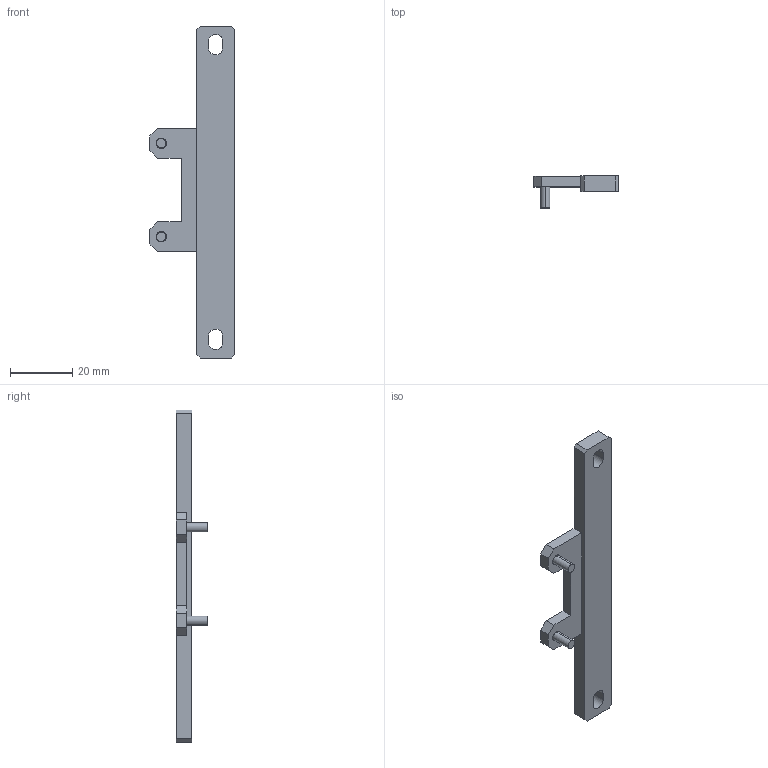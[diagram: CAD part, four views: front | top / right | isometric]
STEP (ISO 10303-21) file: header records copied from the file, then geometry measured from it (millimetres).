
FILE_DESCRIPTION( (''), '2;1');
FILE_NAME ('YS8Z-DM.stp','2022-12-01T15:00:06',(''),(''),'spGate 12.6.6','','');
FILE_SCHEMA (('AUTOMOTIVE_DESIGN'));
Length unit declared in the file: millimetre
Bounding box: 27.2 x 10.3 x 107 mm (x, y, z)
Volume: 7555.6 mm3; surface area: 5048 mm2
Topology: 1 solids, 1 shells, 58 faces, 144 edges, 90 vertices
Faces by surface type: plane 30, cylinder 16, bspline 8, sphere 4
Entity records: 2933 total; most frequent: CARTESIAN_POINT 452, ORIENTED_EDGE 280, DIRECTION 256, COLOUR_RGB 199, PRESENTATION_STYLE_ASSIGNMENT 199, STYLED_ITEM 199, EDGE_CURVE 140, DRAUGHTING_PRE_DEFINED_CURVE_FONT 140
